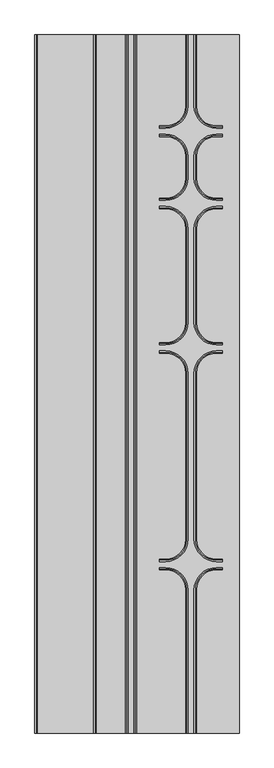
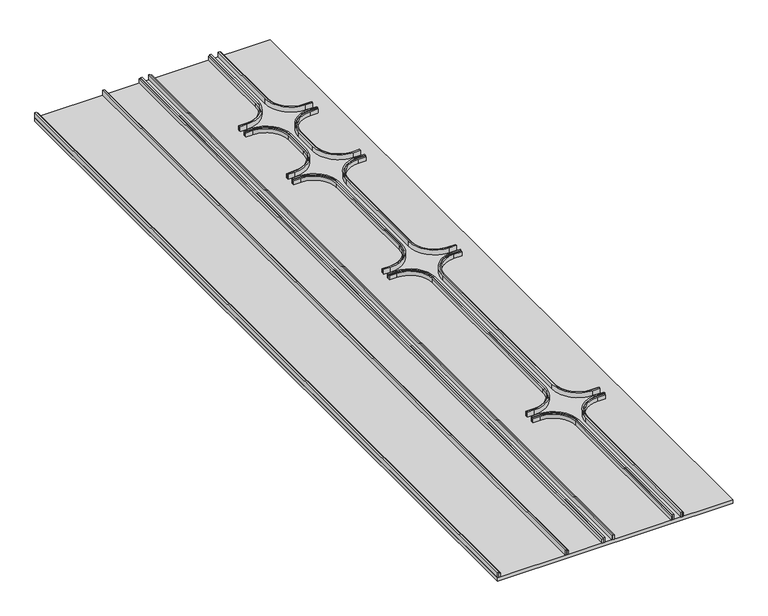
"""IFC4 building model written with IfcOpenShell, lengths in millimetres: proxy geometry, FilzFelt_Ion : Ion D."""

from ifc_helpers import new_model, si_unit, point, frame, frame_2d, origin, origin_with_axes, place, context, project, spatial, polyline, circle_curve, trimmed, segment, composite_curve, outline, extrude, source, transform, mapped, element, save


def specialty_equipment_9bc6d3fd(model_context):
    return source(origin(), model_context, "Body", "SweptSolid", [
        extrude(outline(polyline([(-421.8, 2946.4), (-421.8, 0.0), (-426.8, 0.0), (-426.8, 2946.4), (-421.8, 2946.4)])), frame((0.0, 0.0, 13.0), z_axis=(0.0, 0.0, 1.0), x_axis=(1.0, 0.0, 0.0)), (0.0, 0.0, 1.0), 16.0),
        extrude(outline(composite_curve([segment(trimmed(circle_curve(frame_2d((122.0, 2341.8)), 88.9), [point((210.9, 2341.8))], [point((122.0, 2252.9))], False, "CARTESIAN"), True, "CONTINUOUS"), segment(polyline([(122.0, 2252.9), (95.25, 2252.9), (95.25, 2257.9), (123.35, 2257.9)]), True, "CONTINUOUS"), segment(trimmed(circle_curve(frame_2d((123.35, 2340.45)), 82.55), [point((123.35, 2257.9))], [point((205.9, 2340.45))], True, "CARTESIAN"), True, "CONTINUOUS"), segment(polyline([(205.9, 2340.45), (205.9, 2434.75)]), True, "CONTINUOUS"), segment(trimmed(circle_curve(frame_2d((123.35, 2434.75)), 82.55), [point((205.9, 2434.75))], [point((123.35, 2517.3))], True, "CARTESIAN"), True, "CONTINUOUS"), segment(polyline([(123.35, 2517.3), (95.25, 2517.3), (95.25, 2522.3), (122.0, 2522.3)]), True, "CONTINUOUS"), segment(trimmed(circle_curve(frame_2d((122.0, 2433.4)), 88.9), [point((122.0, 2522.3))], [point((210.9, 2433.4))], False, "CARTESIAN"), True, "CONTINUOUS"), segment(polyline([(210.9, 2433.4), (210.9, 2341.8)]), True, "CONTINUOUS")], self_intersect=False)), frame((0.0, 0.0, 13.0), z_axis=(0.0, 0.0, 1.0), x_axis=(1.0, 0.0, 0.0)), (0.0, 0.0, 1.0), 16.0),
        extrude(outline(composite_curve([segment(trimmed(circle_curve(frame_2d((122.0, 2128.6)), 88.9), [point((122.0, 2217.5))], [point((210.9, 2128.6))], False, "CARTESIAN"), True, "CONTINUOUS"), segment(polyline([(210.9, 2128.6), (210.9, 1732.2)]), True, "CONTINUOUS"), segment(trimmed(circle_curve(frame_2d((122.0, 1732.2)), 88.9), [point((210.9, 1732.2))], [point((122.0, 1643.3))], False, "CARTESIAN"), True, "CONTINUOUS"), segment(polyline([(122.0, 1643.3), (95.25, 1643.3), (95.25, 1648.3), (123.35, 1648.3)]), True, "CONTINUOUS"), segment(trimmed(circle_curve(frame_2d((123.35, 1730.85)), 82.55), [point((123.35, 1648.3))], [point((205.9, 1730.85))], True, "CARTESIAN"), True, "CONTINUOUS"), segment(polyline([(205.9, 1730.85), (205.9, 2129.95)]), True, "CONTINUOUS"), segment(trimmed(circle_curve(frame_2d((123.35, 2129.95)), 82.55), [point((205.9, 2129.95))], [point((123.35, 2212.5))], True, "CARTESIAN"), True, "CONTINUOUS"), segment(polyline([(123.35, 2212.5), (95.25, 2212.5), (95.25, 2217.5), (122.0, 2217.5)]), True, "CONTINUOUS")], self_intersect=False)), frame((0.0, 0.0, 13.0), z_axis=(0.0, 0.0, 1.0), x_axis=(1.0, 0.0, 0.0)), (0.0, 0.0, 1.0), 16.0),
        extrude(outline(composite_curve([segment(trimmed(circle_curve(frame_2d((122.0, 817.8)), 88.9), [point((210.9, 817.8))], [point((122.0, 728.9))], False, "CARTESIAN"), True, "CONTINUOUS"), segment(polyline([(122.0, 728.9), (95.25, 728.9), (95.25, 733.9), (123.35, 733.9)]), True, "CONTINUOUS"), segment(trimmed(circle_curve(frame_2d((123.35, 816.45)), 82.55), [point((123.35, 733.9))], [point((205.9, 816.45))], True, "CARTESIAN"), True, "CONTINUOUS"), segment(polyline([(205.9, 816.45), (205.9, 1520.35)]), True, "CONTINUOUS"), segment(trimmed(circle_curve(frame_2d((123.35, 1520.35)), 82.55), [point((205.9, 1520.35))], [point((123.35, 1602.9))], True, "CARTESIAN"), True, "CONTINUOUS"), segment(polyline([(123.35, 1602.9), (95.25, 1602.9), (95.25, 1607.9), (122.0, 1607.9)]), True, "CONTINUOUS"), segment(trimmed(circle_curve(frame_2d((122.0, 1519.0)), 88.9), [point((122.0, 1607.9))], [point((210.9, 1519.0))], False, "CARTESIAN"), True, "CONTINUOUS"), segment(polyline([(210.9, 1519.0), (210.9, 817.8)]), True, "CONTINUOUS")], self_intersect=False)), frame((0.0, 0.0, 13.0), z_axis=(0.0, 0.0, 1.0), x_axis=(1.0, 0.0, 0.0)), (0.0, 0.0, 1.0), 16.0),
        extrude(outline(composite_curve([segment(trimmed(circle_curve(frame_2d((122.0, 604.6)), 88.9), [point((122.0, 693.5))], [point((210.9, 604.6))], False, "CARTESIAN"), True, "CONTINUOUS"), segment(polyline([(210.9, 604.6), (210.9, 0.0), (205.9, 0.0), (205.9, 605.95)]), True, "CONTINUOUS"), segment(trimmed(circle_curve(frame_2d((123.35, 605.95)), 82.55), [point((205.9, 605.95))], [point((123.35, 688.5))], True, "CARTESIAN"), True, "CONTINUOUS"), segment(polyline([(123.35, 688.5), (95.25, 688.5), (95.25, 693.5), (122.0, 693.5)]), True, "CONTINUOUS")], self_intersect=False)), frame((0.0, 0.0, 13.0), z_axis=(0.0, 0.0, 1.0), x_axis=(1.0, 0.0, 0.0)), (0.0, 0.0, 1.0), 16.0),
        extrude(outline(composite_curve([segment(trimmed(circle_curve(frame_2d((122.0, 2646.6)), 88.9), [point((210.9, 2646.6))], [point((122.0, 2557.7))], False, "CARTESIAN"), True, "CONTINUOUS"), segment(polyline([(122.0, 2557.7), (95.25, 2557.7), (95.25, 2562.7), (123.35, 2562.7)]), True, "CONTINUOUS"), segment(trimmed(circle_curve(frame_2d((123.35, 2645.25)), 82.55), [point((123.35, 2562.7))], [point((205.9, 2645.25))], True, "CARTESIAN"), True, "CONTINUOUS"), segment(polyline([(205.9, 2645.25), (205.9, 2946.4), (210.9, 2946.4), (210.9, 2646.6)]), True, "CONTINUOUS")], self_intersect=False)), frame((0.0, 0.0, 13.0), z_axis=(0.0, 0.0, 1.0), x_axis=(1.0, 0.0, 0.0)), (0.0, 0.0, 1.0), 16.0),
        extrude(outline(polyline([(-172.8, 2946.4), (-172.8, 0.0), (-177.8, 0.0), (-177.8, 2946.4), (-172.8, 2946.4)])), frame((0.0, 0.0, 13.0), z_axis=(0.0, 0.0, 1.0), x_axis=(1.0, 0.0, 0.0)), (0.0, 0.0, 1.0), 16.0),
        extrude(outline(polyline([(-48.1, 2946.4), (-43.1, 2946.4), (-43.1, 0.0), (-48.1, 0.0), (-48.1, 2946.4)])), frame((0.0, 0.0, 13.0), z_axis=(0.0, 0.0, 1.0), x_axis=(1.0, 0.0, 0.0)), (0.0, 0.0, 1.0), 16.0),
        extrude(outline(polyline([(-2.7, 2946.4), (-2.7, 0.0), (-7.7, 0.0), (-7.7, 2946.4), (-2.7, 2946.4)])), frame((0.0, 0.0, 13.0), z_axis=(0.0, 0.0, 1.0), x_axis=(1.0, 0.0, 0.0)), (0.0, 0.0, 1.0), 16.0),
        extrude(outline(composite_curve([segment(polyline([(246.3, 2646.6), (246.3, 2946.4), (251.3, 2946.4), (251.3, 2645.25)]), True, "CONTINUOUS"), segment(trimmed(circle_curve(frame_2d((333.85, 2645.25)), 82.55), [point((251.3, 2645.25))], [point((333.85, 2562.7))], True, "CARTESIAN"), True, "CONTINUOUS"), segment(polyline([(333.85, 2562.7), (361.95, 2562.7), (361.95, 2557.7), (335.2, 2557.7)]), True, "CONTINUOUS"), segment(trimmed(circle_curve(frame_2d((335.2, 2646.6)), 88.9), [point((335.2, 2557.7))], [point((246.3, 2646.6))], False, "CARTESIAN"), True, "CONTINUOUS")], self_intersect=False)), frame((0.0, 0.0, 13.0), z_axis=(0.0, 0.0, 1.0), x_axis=(1.0, 0.0, 0.0)), (0.0, 0.0, 1.0), 16.0),
        extrude(outline(composite_curve([segment(polyline([(246.3, 2341.8), (246.3, 2433.4)]), True, "CONTINUOUS"), segment(trimmed(circle_curve(frame_2d((335.2, 2433.4)), 88.9), [point((246.3, 2433.4))], [point((335.2, 2522.3))], False, "CARTESIAN"), True, "CONTINUOUS"), segment(polyline([(335.2, 2522.3), (361.95, 2522.3), (361.95, 2517.3), (333.85, 2517.3)]), True, "CONTINUOUS"), segment(trimmed(circle_curve(frame_2d((333.85, 2434.75)), 82.55), [point((333.85, 2517.3))], [point((251.3, 2434.75))], True, "CARTESIAN"), True, "CONTINUOUS"), segment(polyline([(251.3, 2434.75), (251.3, 2340.45)]), True, "CONTINUOUS"), segment(trimmed(circle_curve(frame_2d((333.85, 2340.45)), 82.55), [point((251.3, 2340.45))], [point((333.85, 2257.9))], True, "CARTESIAN"), True, "CONTINUOUS"), segment(polyline([(333.85, 2257.9), (361.95, 2257.9), (361.95, 2252.9), (335.2, 2252.9)]), True, "CONTINUOUS"), segment(trimmed(circle_curve(frame_2d((335.2, 2341.8)), 88.9), [point((335.2, 2252.9))], [point((246.3, 2341.8))], False, "CARTESIAN"), True, "CONTINUOUS")], self_intersect=False)), frame((0.0, 0.0, 13.0), z_axis=(0.0, 0.0, 1.0), x_axis=(1.0, 0.0, 0.0)), (0.0, 0.0, 1.0), 16.0),
        extrude(outline(composite_curve([segment(polyline([(335.2, 2217.5), (361.95, 2217.5), (361.95, 2212.5), (333.85, 2212.5)]), True, "CONTINUOUS"), segment(trimmed(circle_curve(frame_2d((333.85, 2129.95)), 82.55), [point((333.85, 2212.5))], [point((251.3, 2129.95))], True, "CARTESIAN"), True, "CONTINUOUS"), segment(polyline([(251.3, 2129.95), (251.3, 1730.85)]), True, "CONTINUOUS"), segment(trimmed(circle_curve(frame_2d((333.85, 1730.85)), 82.55), [point((251.3, 1730.85))], [point((333.85, 1648.3))], True, "CARTESIAN"), True, "CONTINUOUS"), segment(polyline([(333.85, 1648.3), (361.95, 1648.3), (361.95, 1643.3), (335.2, 1643.3)]), True, "CONTINUOUS"), segment(trimmed(circle_curve(frame_2d((335.2, 1732.2)), 88.9), [point((335.2, 1643.3))], [point((246.3, 1732.2))], False, "CARTESIAN"), True, "CONTINUOUS"), segment(polyline([(246.3, 1732.2), (246.3, 2128.6)]), True, "CONTINUOUS"), segment(trimmed(circle_curve(frame_2d((335.2, 2128.6)), 88.9), [point((246.3, 2128.6))], [point((335.2, 2217.5))], False, "CARTESIAN"), True, "CONTINUOUS")], self_intersect=False)), frame((0.0, 0.0, 13.0), z_axis=(0.0, 0.0, 1.0), x_axis=(1.0, 0.0, 0.0)), (0.0, 0.0, 1.0), 16.0),
        extrude(outline(composite_curve([segment(polyline([(246.3, 817.8), (246.3, 1519.0)]), True, "CONTINUOUS"), segment(trimmed(circle_curve(frame_2d((335.2, 1519.0)), 88.9), [point((246.3, 1519.0))], [point((335.2, 1607.9))], False, "CARTESIAN"), True, "CONTINUOUS"), segment(polyline([(335.2, 1607.9), (361.95, 1607.9), (361.95, 1602.9), (333.85, 1602.9)]), True, "CONTINUOUS"), segment(trimmed(circle_curve(frame_2d((333.85, 1520.35)), 82.55), [point((333.85, 1602.9))], [point((251.3, 1520.35))], True, "CARTESIAN"), True, "CONTINUOUS"), segment(polyline([(251.3, 1520.35), (251.3, 816.45)]), True, "CONTINUOUS"), segment(trimmed(circle_curve(frame_2d((333.85, 816.45)), 82.55), [point((251.3, 816.45))], [point((333.85, 733.9))], True, "CARTESIAN"), True, "CONTINUOUS"), segment(polyline([(333.85, 733.9), (361.95, 733.9), (361.95, 728.9), (335.2, 728.9)]), True, "CONTINUOUS"), segment(trimmed(circle_curve(frame_2d((335.2, 817.8)), 88.9), [point((335.2, 728.9))], [point((246.3, 817.8))], False, "CARTESIAN"), True, "CONTINUOUS")], self_intersect=False)), frame((0.0, 0.0, 13.0), z_axis=(0.0, 0.0, 1.0), x_axis=(1.0, 0.0, 0.0)), (0.0, 0.0, 1.0), 16.0),
        extrude(outline(composite_curve([segment(polyline([(335.2, 693.5), (361.95, 693.5), (361.95, 688.5), (333.85, 688.5)]), True, "CONTINUOUS"), segment(trimmed(circle_curve(frame_2d((333.85, 605.95)), 82.55), [point((333.85, 688.5))], [point((251.3, 605.95))], True, "CARTESIAN"), True, "CONTINUOUS"), segment(polyline([(251.3, 605.95), (251.3, 0.0), (246.3, 0.0), (246.3, 604.6)]), True, "CONTINUOUS"), segment(trimmed(circle_curve(frame_2d((335.2, 604.6)), 88.9), [point((246.3, 604.6))], [point((335.2, 693.5))], False, "CARTESIAN"), True, "CONTINUOUS")], self_intersect=False)), frame((0.0, 0.0, 13.0), z_axis=(0.0, 0.0, 1.0), x_axis=(1.0, 0.0, 0.0)), (0.0, 0.0, 1.0), 16.0),
        extrude(outline(polyline([(-426.8, 0.0), (-431.8, 0.0), (-431.8, 2946.4), (-426.8, 2946.4), (-426.8, 0.0)])), frame((0.0, 0.0, 13.0), z_axis=(0.0, 0.0, 1.0), x_axis=(1.0, 0.0, 0.0)), (0.0, 0.0, 1.0), 19.0),
        extrude(outline(polyline([(-12.7, 2946.4), (-7.7, 2946.4), (-7.7, 0.0), (-12.7, 0.0), (-12.7, 2946.4)])), frame((0.0, 0.0, 13.0), z_axis=(0.0, 0.0, 1.0), x_axis=(1.0, 0.0, 0.0)), (0.0, 0.0, 1.0), 19.0),
        extrude(outline(polyline([(-43.1, 2946.4), (-38.1, 2946.4), (-38.1, 0.0), (-43.1, 0.0), (-43.1, 2946.4)])), frame((0.0, 0.0, 13.0), z_axis=(0.0, 0.0, 1.0), x_axis=(1.0, 0.0, 0.0)), (0.0, 0.0, 1.0), 19.0),
        extrude(outline(composite_curve([segment(polyline([(210.9, 0.0), (210.9, 604.6)]), True, "CONTINUOUS"), segment(trimmed(circle_curve(frame_2d((122.0, 604.6)), 88.9), [point((210.9, 604.6))], [point((122.0, 693.5))], True, "CARTESIAN"), True, "CONTINUOUS"), segment(polyline([(122.0, 693.5), (95.25, 693.5), (95.25, 698.5), (120.65, 698.5)]), True, "CONTINUOUS"), segment(trimmed(circle_curve(frame_2d((120.65, 603.25)), 95.25), [point((120.65, 698.5))], [point((215.9, 603.25))], False, "CARTESIAN"), True, "CONTINUOUS"), segment(polyline([(215.9, 603.25), (215.9, 0.0), (210.9, 0.0)]), True, "CONTINUOUS")], self_intersect=False)), frame((0.0, 0.0, 13.0), z_axis=(0.0, 0.0, 1.0), x_axis=(1.0, 0.0, 0.0)), (0.0, 0.0, 1.0), 19.0),
        extrude(outline(composite_curve([segment(polyline([(215.9, 1517.65), (215.9, 819.15)]), True, "CONTINUOUS"), segment(trimmed(circle_curve(frame_2d((120.65, 819.15)), 95.25), [point((215.9, 819.15))], [point((120.65, 723.9))], False, "CARTESIAN"), True, "CONTINUOUS"), segment(polyline([(120.65, 723.9), (95.25, 723.9), (95.25, 728.9), (122.0, 728.9)]), True, "CONTINUOUS"), segment(trimmed(circle_curve(frame_2d((122.0, 817.8)), 88.9), [point((122.0, 728.9))], [point((210.9, 817.8))], True, "CARTESIAN"), True, "CONTINUOUS"), segment(polyline([(210.9, 817.8), (210.9, 1519.0)]), True, "CONTINUOUS"), segment(trimmed(circle_curve(frame_2d((122.0, 1519.0)), 88.9), [point((210.9, 1519.0))], [point((122.0, 1607.9))], True, "CARTESIAN"), True, "CONTINUOUS"), segment(polyline([(122.0, 1607.9), (95.25, 1607.9), (95.25, 1612.9), (120.65, 1612.9)]), True, "CONTINUOUS"), segment(trimmed(circle_curve(frame_2d((120.65, 1517.65)), 95.25), [point((120.65, 1612.9))], [point((215.9, 1517.65))], False, "CARTESIAN"), True, "CONTINUOUS")], self_intersect=False)), frame((0.0, 0.0, 13.0), z_axis=(0.0, 0.0, 1.0), x_axis=(1.0, 0.0, 0.0)), (0.0, 0.0, 1.0), 19.0),
        extrude(outline(composite_curve([segment(polyline([(210.9, 1732.2), (210.9, 2128.6)]), True, "CONTINUOUS"), segment(trimmed(circle_curve(frame_2d((122.0, 2128.6)), 88.9), [point((210.9, 2128.6))], [point((122.0, 2217.5))], True, "CARTESIAN"), True, "CONTINUOUS"), segment(polyline([(122.0, 2217.5), (95.25, 2217.5), (95.25, 2222.5), (120.65, 2222.5)]), True, "CONTINUOUS"), segment(trimmed(circle_curve(frame_2d((120.65, 2127.25)), 95.25), [point((120.65, 2222.5))], [point((215.9, 2127.25))], False, "CARTESIAN"), True, "CONTINUOUS"), segment(polyline([(215.9, 2127.25), (215.9, 1733.55)]), True, "CONTINUOUS"), segment(trimmed(circle_curve(frame_2d((120.65, 1733.55)), 95.25), [point((215.9, 1733.55))], [point((120.65, 1638.3))], False, "CARTESIAN"), True, "CONTINUOUS"), segment(polyline([(120.65, 1638.3), (95.25, 1638.3), (95.25, 1643.3), (122.0, 1643.3)]), True, "CONTINUOUS"), segment(trimmed(circle_curve(frame_2d((122.0, 1732.2)), 88.9), [point((122.0, 1643.3))], [point((210.9, 1732.2))], True, "CARTESIAN"), True, "CONTINUOUS")], self_intersect=False)), frame((0.0, 0.0, 13.0), z_axis=(0.0, 0.0, 1.0), x_axis=(1.0, 0.0, 0.0)), (0.0, 0.0, 1.0), 19.0),
        extrude(outline(composite_curve([segment(trimmed(circle_curve(frame_2d((122.0, 2341.8)), 88.9), [point((122.0, 2252.9))], [point((210.9, 2341.8))], True, "CARTESIAN"), True, "CONTINUOUS"), segment(polyline([(210.9, 2341.8), (210.9, 2433.4)]), True, "CONTINUOUS"), segment(trimmed(circle_curve(frame_2d((122.0, 2433.4)), 88.9), [point((210.9, 2433.4))], [point((122.0, 2522.3))], True, "CARTESIAN"), True, "CONTINUOUS"), segment(polyline([(122.0, 2522.3), (95.25, 2522.3), (95.25, 2527.3), (120.65, 2527.3)]), True, "CONTINUOUS"), segment(trimmed(circle_curve(frame_2d((120.65, 2432.05)), 95.25), [point((120.65, 2527.3))], [point((215.9, 2432.05))], False, "CARTESIAN"), True, "CONTINUOUS"), segment(polyline([(215.9, 2432.05), (215.9, 2343.15)]), True, "CONTINUOUS"), segment(trimmed(circle_curve(frame_2d((120.65, 2343.15)), 95.25), [point((215.9, 2343.15))], [point((120.65, 2247.9))], False, "CARTESIAN"), True, "CONTINUOUS"), segment(polyline([(120.65, 2247.9), (95.25, 2247.9), (95.25, 2252.9), (122.0, 2252.9)]), True, "CONTINUOUS")], self_intersect=False)), frame((0.0, 0.0, 13.0), z_axis=(0.0, 0.0, 1.0), x_axis=(1.0, 0.0, 0.0)), (0.0, 0.0, 1.0), 19.0),
        extrude(outline(composite_curve([segment(polyline([(215.9, 2946.4), (215.9, 2647.95)]), True, "CONTINUOUS"), segment(trimmed(circle_curve(frame_2d((120.65, 2647.95)), 95.25), [point((215.9, 2647.95))], [point((120.65, 2552.7))], False, "CARTESIAN"), True, "CONTINUOUS"), segment(polyline([(120.65, 2552.7), (95.25, 2552.7), (95.25, 2557.7), (122.0, 2557.7)]), True, "CONTINUOUS"), segment(trimmed(circle_curve(frame_2d((122.0, 2646.6)), 88.9), [point((122.0, 2557.7))], [point((210.9, 2646.6))], True, "CARTESIAN"), True, "CONTINUOUS"), segment(polyline([(210.9, 2646.6), (210.9, 2946.4), (215.9, 2946.4)]), True, "CONTINUOUS")], self_intersect=False)), frame((0.0, 0.0, 13.0), z_axis=(0.0, 0.0, 1.0), x_axis=(1.0, 0.0, 0.0)), (0.0, 0.0, 1.0), 19.0),
        extrude(outline(polyline([(-177.8, 0.0), (-182.8, 0.0), (-182.8, 2946.4), (-177.8, 2946.4), (-177.8, 0.0)])), frame((0.0, 0.0, 13.0), z_axis=(0.0, 0.0, 1.0), x_axis=(1.0, 0.0, 0.0)), (0.0, 0.0, 1.0), 19.0),
        extrude(outline(composite_curve([segment(polyline([(246.3, 0.0), (241.3, 0.0), (241.3, 603.25)]), True, "CONTINUOUS"), segment(trimmed(circle_curve(frame_2d((336.55, 603.25)), 95.25), [point((241.3, 603.25))], [point((336.55, 698.5))], False, "CARTESIAN"), True, "CONTINUOUS"), segment(polyline([(336.55, 698.5), (361.95, 698.5), (361.95, 693.5), (335.2, 693.5)]), True, "CONTINUOUS"), segment(trimmed(circle_curve(frame_2d((335.2, 604.6)), 88.9), [point((335.2, 693.5))], [point((246.3, 604.6))], True, "CARTESIAN"), True, "CONTINUOUS"), segment(polyline([(246.3, 604.6), (246.3, 0.0)]), True, "CONTINUOUS")], self_intersect=False)), frame((0.0, 0.0, 13.0), z_axis=(0.0, 0.0, 1.0), x_axis=(1.0, 0.0, 0.0)), (0.0, 0.0, 1.0), 19.0),
        extrude(outline(composite_curve([segment(trimmed(circle_curve(frame_2d((336.55, 1517.65)), 95.25), [point((241.3, 1517.65))], [point((336.55, 1612.9))], False, "CARTESIAN"), True, "CONTINUOUS"), segment(polyline([(336.55, 1612.9), (361.95, 1612.9), (361.95, 1607.9), (335.2, 1607.9)]), True, "CONTINUOUS"), segment(trimmed(circle_curve(frame_2d((335.2, 1519.0)), 88.9), [point((335.2, 1607.9))], [point((246.3, 1519.0))], True, "CARTESIAN"), True, "CONTINUOUS"), segment(polyline([(246.3, 1519.0), (246.3, 817.8)]), True, "CONTINUOUS"), segment(trimmed(circle_curve(frame_2d((335.2, 817.8)), 88.9), [point((246.3, 817.8))], [point((335.2, 728.9))], True, "CARTESIAN"), True, "CONTINUOUS"), segment(polyline([(335.2, 728.9), (361.95, 728.9), (361.95, 723.9), (336.55, 723.9)]), True, "CONTINUOUS"), segment(trimmed(circle_curve(frame_2d((336.55, 819.15)), 95.25), [point((336.55, 723.9))], [point((241.3, 819.15))], False, "CARTESIAN"), True, "CONTINUOUS"), segment(polyline([(241.3, 819.15), (241.3, 1517.65)]), True, "CONTINUOUS")], self_intersect=False)), frame((0.0, 0.0, 13.0), z_axis=(0.0, 0.0, 1.0), x_axis=(1.0, 0.0, 0.0)), (0.0, 0.0, 1.0), 19.0),
        extrude(outline(composite_curve([segment(trimmed(circle_curve(frame_2d((335.2, 1732.2)), 88.9), [point((246.3, 1732.2))], [point((335.2, 1643.3))], True, "CARTESIAN"), True, "CONTINUOUS"), segment(polyline([(335.2, 1643.3), (361.95, 1643.3), (361.95, 1638.3), (336.55, 1638.3)]), True, "CONTINUOUS"), segment(trimmed(circle_curve(frame_2d((336.55, 1733.55)), 95.25), [point((336.55, 1638.3))], [point((241.3, 1733.55))], False, "CARTESIAN"), True, "CONTINUOUS"), segment(polyline([(241.3, 1733.55), (241.3, 2127.25)]), True, "CONTINUOUS"), segment(trimmed(circle_curve(frame_2d((336.55, 2127.25)), 95.25), [point((241.3, 2127.25))], [point((336.55, 2222.5))], False, "CARTESIAN"), True, "CONTINUOUS"), segment(polyline([(336.55, 2222.5), (361.95, 2222.5), (361.95, 2217.5), (335.2, 2217.5)]), True, "CONTINUOUS"), segment(trimmed(circle_curve(frame_2d((335.2, 2128.6)), 88.9), [point((335.2, 2217.5))], [point((246.3, 2128.6))], True, "CARTESIAN"), True, "CONTINUOUS"), segment(polyline([(246.3, 2128.6), (246.3, 1732.2)]), True, "CONTINUOUS")], self_intersect=False)), frame((0.0, 0.0, 13.0), z_axis=(0.0, 0.0, 1.0), x_axis=(1.0, 0.0, 0.0)), (0.0, 0.0, 1.0), 19.0),
        extrude(outline(composite_curve([segment(polyline([(335.2, 2252.9), (361.95, 2252.9), (361.95, 2247.9), (336.55, 2247.9)]), True, "CONTINUOUS"), segment(trimmed(circle_curve(frame_2d((336.55, 2343.15)), 95.25), [point((336.55, 2247.9))], [point((241.3, 2343.15))], False, "CARTESIAN"), True, "CONTINUOUS"), segment(polyline([(241.3, 2343.15), (241.3, 2432.05)]), True, "CONTINUOUS"), segment(trimmed(circle_curve(frame_2d((336.55, 2432.05)), 95.25), [point((241.3, 2432.05))], [point((336.55, 2527.3))], False, "CARTESIAN"), True, "CONTINUOUS"), segment(polyline([(336.55, 2527.3), (361.95, 2527.3), (361.95, 2522.3), (335.2, 2522.3)]), True, "CONTINUOUS"), segment(trimmed(circle_curve(frame_2d((335.2, 2433.4)), 88.9), [point((335.2, 2522.3))], [point((246.3, 2433.4))], True, "CARTESIAN"), True, "CONTINUOUS"), segment(polyline([(246.3, 2433.4), (246.3, 2341.8)]), True, "CONTINUOUS"), segment(trimmed(circle_curve(frame_2d((335.2, 2341.8)), 88.9), [point((246.3, 2341.8))], [point((335.2, 2252.9))], True, "CARTESIAN"), True, "CONTINUOUS")], self_intersect=False)), frame((0.0, 0.0, 13.0), z_axis=(0.0, 0.0, 1.0), x_axis=(1.0, 0.0, 0.0)), (0.0, 0.0, 1.0), 19.0),
        extrude(outline(composite_curve([segment(polyline([(241.3, 2946.4), (246.3, 2946.4), (246.3, 2646.6)]), True, "CONTINUOUS"), segment(trimmed(circle_curve(frame_2d((335.2, 2646.6)), 88.9), [point((246.3, 2646.6))], [point((335.2, 2557.7))], True, "CARTESIAN"), True, "CONTINUOUS"), segment(polyline([(335.2, 2557.7), (361.95, 2557.7), (361.95, 2552.7), (336.55, 2552.7)]), True, "CONTINUOUS"), segment(trimmed(circle_curve(frame_2d((336.55, 2647.95)), 95.25), [point((336.55, 2552.7))], [point((241.3, 2647.95))], False, "CARTESIAN"), True, "CONTINUOUS"), segment(polyline([(241.3, 2647.95), (241.3, 2946.4)]), True, "CONTINUOUS")], self_intersect=False)), frame((0.0, 0.0, 13.0), z_axis=(0.0, 0.0, 1.0), x_axis=(1.0, 0.0, 0.0)), (0.0, 0.0, 1.0), 19.0),
        extrude(outline(polyline([(-431.8, 0.0), (-431.8, 2946.4), (431.8, 2946.4), (431.8, 0.0), (-431.8, 0.0)])), origin_with_axes(), (0.0, 0.0, 1.0), 13.0),
    ])


if __name__ == "__main__":
    model = new_model("IFC4")
    model_context = context("Model", 3, world=origin())
    ifc_project = project(units=[si_unit("LENGTHUNIT", "METRE", prefix="MILLI")], contexts=[model_context])
    site = spatial("IfcSite", under=ifc_project)
    building = spatial("IfcBuilding", under=site)
    placement = place(None, origin())
    specialty_equipment_shape = specialty_equipment_9bc6d3fd(model_context)
    element("IfcBuildingElementProxy", 1, Name="FilzFelt_Ion : Ion D", ObjectType="FilzFelt_Ion : Ion D", at=placement, inside=building, context=model_context, shape_type="MappedRepresentation", body=[
        mapped(specialty_equipment_shape, transform((0.0, 0.0, 0.0), x_axis=(1.0, 0.0, 0.0), y_axis=(0.0, 1.0, 0.0), z_axis=(0.0, 0.0, 1.0))),
    ])
    save(model, "model.ifc")
